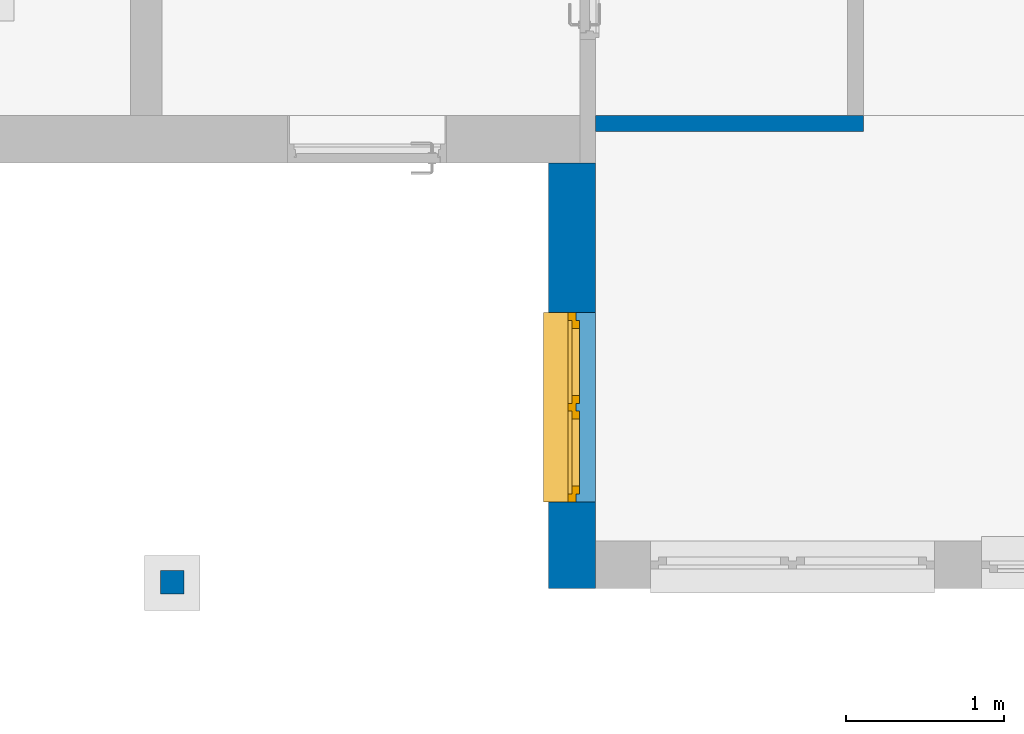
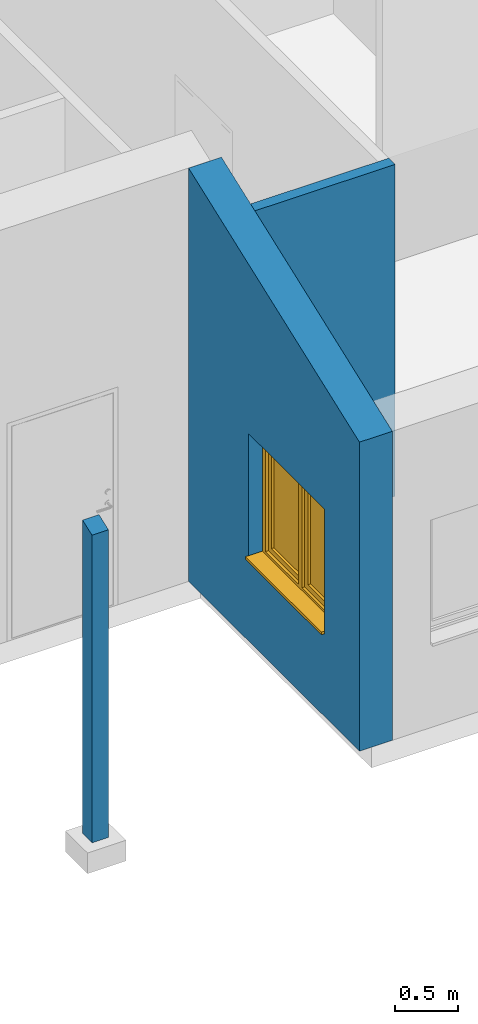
# One storey, part 6 of 23: 3 walls, 1 window, 1 opening.
"""IFC2X3 building model written with IfcOpenShell, lengths in millimetres."""

from ifc_helpers import new_model, entity, si_unit, converted_unit, direction, frame, frame_2d, origin, origin_2d_with_axis, place, context, subcontext, project, spatial, polyline, rectangle, outline, extrude, clip, bounded_halfspace, source, transform, mapped, material, material_list, layer, layer_set, layer_usage, type_object, type_shapes, element, fill, save


model = new_model("IFC2X3")

# Units and contexts
model_context = context("Model", 3, precision=0.01, world=origin(), true_north=direction((6.123031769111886e-17, 1.0)))
body_context = subcontext(model_context, "Body", "Model", "MODEL_VIEW")
ifc_project = project(units=[si_unit("LENGTHUNIT", "METRE", prefix="MILLI"), converted_unit("PLANEANGLEUNIT", "DEGREE", entity("IfcPlaneAngleMeasure", 0.017453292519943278), si_unit("PLANEANGLEUNIT", "RADIAN"), dimensions=[0, 0, 0, 0, 0, 0, 0]), si_unit("AREAUNIT", "SQUARE_METRE")], contexts=[model_context])

# Site, building, storey
site_placement = place(None, frame((7776.576483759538, 118.3519876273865, 0.0)))
site = spatial("IfcSite", under=ifc_project, at=site_placement, Name="Default", CompositionType="ELEMENT")
building_placement = place(site_placement, origin())
building = spatial("IfcBuilding", under=site, at=building_placement, Name="Bygning (endres i Project Information)", CompositionType="ELEMENT")
storey_placement = place(building_placement, frame((0.0, 0.0, 19000.0)))
storey = spatial("IfcBuildingStorey", under=building, at=storey_placement, Name="Plan 01", CompositionType="ELEMENT", Elevation=19000.0)

# Wall, opening, window
ifc_material_1 = material(Name="Default Wall")
ifc_layer_1 = layer(ifc_material_1, 300.0)
ifc_layer_set_1 = layer_set([ifc_layer_1], Name="Basic Wall:Generic - 300mm")
ifc_layer_usage_1 = layer_usage(ifc_layer_set_1, "AXIS2", "NEGATIVE", 149.99999999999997)
wall_type_1 = type_object("IfcWallType", Name="Basic Wall:Generic - 300mm", PredefinedType="STANDARD", material=ifc_layer_set_1)
wall_1_placement = place(storey_placement, frame((34824.00137486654, 19397.757305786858, 0.0), z_axis=(0.0, 0.0, 1.0), x_axis=(0.0, -1.0, 0.0)))
wall_1 = element("IfcWallStandardCase", 1, at=wall_1_placement, inside=storey, type_object=wall_type_1, material=ifc_layer_usage_1, Name="Basic Wall:Generic - 300mm", ObjectType="Basic Wall:Generic - 300mm", context=body_context, shape_type="Clipping", body=[
    clip(extrude(rectangle(XDim=2700.0000000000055, YDim=300.0000000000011, at=frame_2d((1350.0000000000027, 6.252776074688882e-13), x_axis=(-1.0, 0.0))), origin(), (0.0, 0.0, 1.0), 3986.335403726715), bounded_halfspace(frame((0.0, -150.0, 3986.335403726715), z_axis=(0.34920923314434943, 0.0, 0.9370447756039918), x_axis=(0.0, 1.0, 0.0)), False, frame((0.0, -150.0, 3986.335403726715)), polyline([(0.0, 0.0), (2700.0, 0.0), (2700.0, 300.0), (2400.0, 300.0), (0.0, 300.0), (0.0, 200.0), (0.0, 0.0)]))),
])
opening_placement = place(wall_1_placement, frame((2150.0, 150.0, 800.0)))
opening = element("IfcOpeningElement", 2, at=opening_placement, cuts=wall_1, Name="Awning Casement double:1200/1200:1", ObjectType="Opening", context=body_context, shape_type="SweptSolid", body=[
    extrude(rectangle(XDim=1199.999999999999, YDim=1199.9999999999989, at=frame_2d((600.0, 600.0000000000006), x_axis=(1.0, 0.0))), frame((0.0, 0.0, 0.0), z_axis=(0.0, -1.0, 0.0), x_axis=(0.0, 0.0, 1.0)), (0.0, 0.0, 1.0), 299.99999999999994),
])
ifc_material_2 = material(Name="Glass")
ifc_material_3 = material(Name="Default Frame")
ifc_material_4 = material(Name="Default Sill")
ifc_material_list = material_list([ifc_material_2, ifc_material_3, ifc_material_4])
window_style = type_object("IfcWindowStyle", Name="Awning Casement double:1200/1200", ConstructionType="NOTDEFINED", OperationType="DOUBLE_PANEL_VERTICAL", ParameterTakesPrecedence=False, Sizeable=False, material=ifc_material_list)
shared_shape = source(origin(), body_context, "Body", "SweptSolid", [
    extrude(rectangle(XDim=1.000000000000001, YDim=425.00000000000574, at=origin_2d_with_axis()), frame((887.500000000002, 125.0, 100.0), z_axis=(0.0, 0.0, 1.0), x_axis=(0.0, 1.0, 0.0)), (0.0, 0.0, 1.0), 999.9999999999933),
    extrude(rectangle(XDim=1.000000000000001, YDim=424.99999999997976, at=frame_2d((0.0, 4.263256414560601e-14), x_axis=(1.0, 0.0))), frame((312.5000000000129, 125.0, 100.0), z_axis=(0.0, 0.0, 1.0), x_axis=(0.0, 1.0, 0.0)), (0.0, 0.0, 1.0), 999.999999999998),
    extrude(rectangle(XDim=50.00000000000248, YDim=50.00000000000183, at=origin_2d_with_axis()), frame((600.0, 150.50000000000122, 50.0), z_axis=(0.0, 0.0, 1.0), x_axis=(0.0, 1.0, 0.0)), (0.0, 0.0, 1.0), 1099.9999999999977),
    extrude(outline(polyline([(-550.0, -262.50000000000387), (550.0, -262.50000000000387), (550.0, 262.50000000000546), (-550.0, 262.50000000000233), (-550.0, -262.50000000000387)]), holes=[polyline([(-500.0, -212.49999999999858), (-500.0, 212.5000000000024), (500.0, 212.50000000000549), (500.0, -212.49999999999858), (-500.0, -212.49999999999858)])]), frame((887.5000000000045, 100.49999999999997, 600.0), z_axis=(0.0, 1.0, 0.0), x_axis=(0.0, 0.0, -1.0)), (0.0, 0.0, 1.0), 49.5),
    extrude(outline(polyline([(-550.0, -262.4999999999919), (550.0, -262.4999999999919), (550.0, 262.4999999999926), (-550.0, 262.49999999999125), (-550.0, -262.4999999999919)]), holes=[polyline([(-500.0, -212.49999999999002), (-500.0, 212.49999999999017), (500.0, 212.4999999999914), (500.0, -212.49999999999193), (-500.0, -212.49999999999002)])]), frame((312.5000000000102, 100.49999999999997, 600.0), z_axis=(0.0, 1.0, 0.0), x_axis=(0.0, 0.0, -1.0)), (0.0, 0.0, 1.0), 49.5),
    extrude(outline(polyline([(-600.0, -600.0), (600.0, -600.0), (600.0, 600.0), (-600.0, 600.0), (-600.0, -600.0)]), holes=[polyline([(-550.0, -550.0), (-550.0, 550.0), (550.0, 550.0), (550.0, -550.0), (-550.0, -550.0)])]), frame((600.0, 125.49999999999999, 600.0), z_axis=(0.0, 1.0, 0.0), x_axis=(0.0, 0.0, -1.0)), (0.0, 0.0, 1.0), 50.00000000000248),
    extrude(rectangle(XDim=154.49999999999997, YDim=1199.9999999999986, at=frame_2d((-1.4210854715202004e-14, 0.0), x_axis=(1.0, 0.0))), frame((600.0, 252.74999999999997, 0.0), z_axis=(0.0, 0.0, 1.0), x_axis=(0.0, 1.0, 0.0)), (0.0, 0.0, 1.0), 24.999999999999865),
])
type_shapes(window_style, [shared_shape])
window_placement = place(opening_placement, frame((0.0, 0.0, 0.0), z_axis=(0.0, 0.0, 1.0), x_axis=(-1.0, 0.0, 0.0)))
window = element("IfcWindow", 3, at=window_placement, inside=storey, type_object=window_style, material=ifc_material_list, Name="Awning Casement double:1200/1200", ObjectType="Awning Casement double:1200/1200", OverallHeight=1200.0, OverallWidth=1200.0, context=body_context, shape_type="MappedRepresentation", body=[
    mapped(shared_shape, transform((0.0, 0.0, 0.0), scale=1.0)),
])
fill(opening, window)

# Walls
ifc_layer_2 = layer(ifc_material_1, 100.0)
ifc_layer_set_2 = layer_set([ifc_layer_2], Name="Basic Wall:Generic - 100mm")
ifc_layer_usage_2 = layer_usage(ifc_layer_set_2, "AXIS2", "NEGATIVE", 50.0)
wall_type_2 = type_object("IfcWallType", Name="Basic Wall:Generic - 100mm", PredefinedType="STANDARD", material=ifc_layer_set_2)
wall_2_placement = place(storey_placement, frame((36674.00137486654, 19647.757305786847, 0.0), z_axis=(0.0, 0.0, 1.0), x_axis=(-1.0, 0.0, 0.0)))
element("IfcWallStandardCase", 4, at=wall_2_placement, inside=storey, type_object=wall_type_2, material=ifc_layer_usage_2, Name="Basic Wall:Generic - 100mm", ObjectType="Basic Wall:Generic - 100mm", context=body_context, shape_type="SweptSolid", body=[
    extrude(rectangle(XDim=1699.999999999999, YDim=100.00000000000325, at=frame_2d((849.9999999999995, 4.654054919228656e-13), x_axis=(-1.0, 0.0))), origin(), (0.0, 0.0, 1.0), 3200.0),
])
ifc_layer_3 = layer(ifc_material_1, 150.0)
ifc_layer_set_3 = layer_set([ifc_layer_3], Name="Basic Wall:Generic - 150mm")
ifc_layer_usage_3 = layer_usage(ifc_layer_set_3, "AXIS2", "NEGATIVE", 75.0)
wall_type_3 = type_object("IfcWallType", Name="Basic Wall:Generic - 150mm", PredefinedType="STANDARD", material=ifc_layer_set_3)
wall_3_placement = place(storey_placement, frame((32363.436726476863, 16735.94031895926, 0.0), z_axis=(0.0, 0.0, 1.0), x_axis=(-1.0, 0.0, 0.0)))
element("IfcWallStandardCase", 5, at=wall_3_placement, inside=storey, type_object=wall_type_3, material=ifc_layer_usage_3, Name="Basic Wall:Generic - 150mm", ObjectType="Basic Wall:Generic - 150mm", context=body_context, shape_type="Clipping", body=[
    clip(extrude(rectangle(XDim=150.00000000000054, YDim=150.00000000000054, at=frame_2d((75.00000000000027, 0.0), x_axis=(-1.0, 0.0))), origin(), (0.0, 0.0, 1.0), 3022.3042285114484), bounded_halfspace(frame((0.0, -75.0, 3022.3042285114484), z_axis=(0.0, 0.34920923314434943, 0.9370447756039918), x_axis=(-1.0, 0.0, 0.0)), False, frame((0.0, -75.0, 3022.3042285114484)), polyline([(0.0, 0.0), (150.0, 0.0), (150.0, 150.0), (0.0, 150.0), (0.0, 0.0)]))),
])

save(model, "model.ifc")
